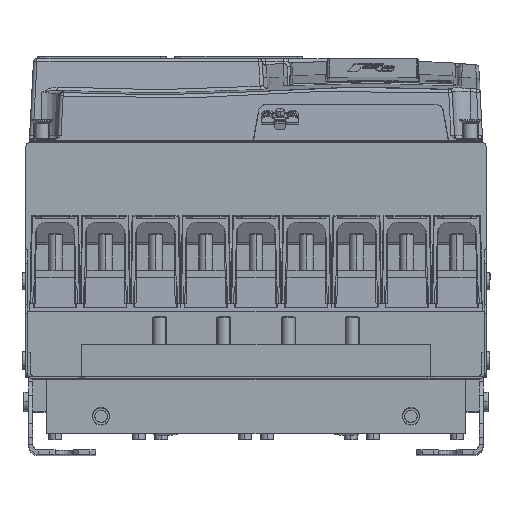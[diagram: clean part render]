
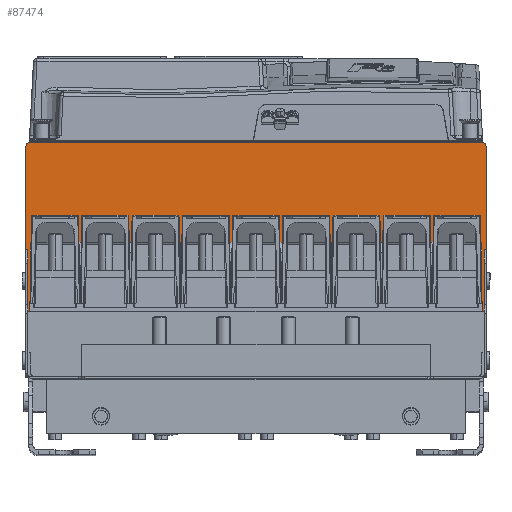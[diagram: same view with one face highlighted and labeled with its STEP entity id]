
A CAD part, top view. The second image highlights one B-rep face of the part: STEP entity #87474.
In plain terms, the highlighted planar face has unit normal (0, 0, 1).
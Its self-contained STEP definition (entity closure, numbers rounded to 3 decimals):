
#2790 = EDGE_CURVE ( 'NONE', #92805, #102068, #97127, .T. ) ;
#3140 = CIRCLE ( 'NONE', #10256, 3.5 ) ;
#4998 = EDGE_CURVE ( 'NONE', #56750, #82216, #3140, .T. ) ;
#6146 = ORIENTED_EDGE ( 'NONE', *, *, #27000, .T. ) ;
#7395 = CARTESIAN_POINT ( 'NONE',  ( -163.5, -167.9, 453. ) ) ;
#7453 = CARTESIAN_POINT ( 'NONE',  ( 165., -3.5, 453. ) ) ;
#8134 = CARTESIAN_POINT ( 'NONE',  ( 161.5, -3.5, 453. ) ) ;
#8350 = PLANE ( 'NONE',  #47885 ) ;
#8875 = VECTOR ( 'NONE', #55906, 1000. ) ;
#8895 = CARTESIAN_POINT ( 'NONE',  ( 0., 0., 453. ) ) ;
#10256 = AXIS2_PLACEMENT_3D ( 'NONE', #14265, #15369, #81731 ) ;
#11557 = CARTESIAN_POINT ( 'NONE',  ( 165.001, -77., 453. ) ) ;
#12762 = VECTOR ( 'NONE', #35684, 1000. ) ;
#13292 = CARTESIAN_POINT ( 'NONE',  ( 0., 0., 453. ) ) ;
#14265 = CARTESIAN_POINT ( 'NONE',  ( -161.5, -3.5, 453. ) ) ;
#15369 = DIRECTION ( 'NONE',  ( 0., 0., -1. ) ) ;
#15928 = LINE ( 'NONE', #69919, #17492 ) ;
#17492 = VECTOR ( 'NONE', #60562, 1000. ) ;
#20018 = CARTESIAN_POINT ( 'NONE',  ( -165., -3.5, 453. ) ) ;
#20489 = ORIENTED_EDGE ( 'NONE', *, *, #2790, .F. ) ;
#21350 = CARTESIAN_POINT ( 'NONE',  ( -163.5, 0., 453. ) ) ;
#22997 = EDGE_CURVE ( 'NONE', #82216, #40141, #70806, .T. ) ;
#24226 = ORIENTED_EDGE ( 'NONE', *, *, #109291, .T. ) ;
#26574 = FACE_OUTER_BOUND ( 'NONE', #77786, .T. ) ;
#27000 = EDGE_CURVE ( 'NONE', #64471, #66567, #48810, .T. ) ;
#27657 = EDGE_CURVE ( 'NONE', #56750, #62754, #86053, .T. ) ;
#28293 = ORIENTED_EDGE ( 'NONE', *, *, #36890, .F. ) ;
#29123 = LINE ( 'NONE', #62865, #100164 ) ;
#29160 = VERTEX_POINT ( 'NONE', #67356 ) ;
#33069 = VERTEX_POINT ( 'NONE', #90063 ) ;
#35001 = CARTESIAN_POINT ( 'NONE',  ( -165., -77., 453. ) ) ;
#35684 = DIRECTION ( 'NONE',  ( 0., -1., 0. ) ) ;
#36341 = EDGE_CURVE ( 'NONE', #33069, #29160, #15928, .T. ) ;
#36591 = VECTOR ( 'NONE', #55065, 1000. ) ;
#36890 = EDGE_CURVE ( 'NONE', #29160, #92805, #107880, .T. ) ;
#40141 = VERTEX_POINT ( 'NONE', #88244 ) ;
#41856 = DIRECTION ( 'NONE',  ( 0., 0., -1. ) ) ;
#42885 = ORIENTED_EDGE ( 'NONE', *, *, #63305, .F. ) ;
#47885 = AXIS2_PLACEMENT_3D ( 'NONE', #8895, #109013, #100730 ) ;
#48810 = LINE ( 'NONE', #58206, #90277 ) ;
#50532 = EDGE_CURVE ( 'NONE', #40141, #66567, #60912, .T. ) ;
#51311 = ORIENTED_EDGE ( 'NONE', *, *, #50532, .F. ) ;
#52331 = DIRECTION ( 'NONE',  ( 0., 1., 0. ) ) ;
#53565 = LINE ( 'NONE', #11557, #108946 ) ;
#55065 = DIRECTION ( 'NONE',  ( 0., 1., 0. ) ) ;
#55906 = DIRECTION ( 'NONE',  ( -1., 0., 0. ) ) ;
#56319 = VECTOR ( 'NONE', #80744, 1000. ) ;
#56750 = VERTEX_POINT ( 'NONE', #20018 ) ;
#58206 = CARTESIAN_POINT ( 'NONE',  ( 165., -3.5, 453. ) ) ;
#59247 = AXIS2_PLACEMENT_3D ( 'NONE', #8134, #41856, #52331 ) ;
#60562 = DIRECTION ( 'NONE',  ( 0., -1., 0. ) ) ;
#60912 = CIRCLE ( 'NONE', #59247, 3.5 ) ;
#62248 = ORIENTED_EDGE ( 'NONE', *, *, #22997, .F. ) ;
#62542 = CARTESIAN_POINT ( 'NONE',  ( -163.5, -77., 453. ) ) ;
#62754 = VERTEX_POINT ( 'NONE', #35001 ) ;
#62865 = CARTESIAN_POINT ( 'NONE',  ( -165.001, -77., 453. ) ) ;
#63305 = EDGE_CURVE ( 'NONE', #64471, #33069, #53565, .T. ) ;
#64471 = VERTEX_POINT ( 'NONE', #91692 ) ;
#66567 = VERTEX_POINT ( 'NONE', #7453 ) ;
#67053 = DIRECTION ( 'NONE',  ( 0., 1., 0. ) ) ;
#67356 = CARTESIAN_POINT ( 'NONE',  ( 163.5, -167.9, 453. ) ) ;
#67480 = ORIENTED_EDGE ( 'NONE', *, *, #4998, .F. ) ;
#69919 = CARTESIAN_POINT ( 'NONE',  ( 163.5, 0., 453. ) ) ;
#70751 = ORIENTED_EDGE ( 'NONE', *, *, #27657, .T. ) ;
#70806 = LINE ( 'NONE', #13292, #56319 ) ;
#77786 = EDGE_LOOP ( 'NONE', ( #67480, #70751, #24226, #20489, #28293, #79340, #42885, #6146, #51311, #62248 ) ) ;
#79340 = ORIENTED_EDGE ( 'NONE', *, *, #36341, .F. ) ;
#80744 = DIRECTION ( 'NONE',  ( 1., 0., 0. ) ) ;
#81731 = DIRECTION ( 'NONE',  ( 0., 1., 0. ) ) ;
#81846 = CARTESIAN_POINT ( 'NONE',  ( -161.5, 0., 453. ) ) ;
#82216 = VERTEX_POINT ( 'NONE', #81846 ) ;
#86053 = LINE ( 'NONE', #102656, #12762 ) ;
#87474 = ADVANCED_FACE ( 'NONE', ( #26574 ), #8350, .F. ) ;
#88244 = CARTESIAN_POINT ( 'NONE',  ( 161.5, 0., 453. ) ) ;
#88307 = DIRECTION ( 'NONE',  ( 1., 0., 0. ) ) ;
#90063 = CARTESIAN_POINT ( 'NONE',  ( 163.5, -77., 453. ) ) ;
#90277 = VECTOR ( 'NONE', #67053, 1000. ) ;
#91692 = CARTESIAN_POINT ( 'NONE',  ( 165., -77., 453. ) ) ;
#92805 = VERTEX_POINT ( 'NONE', #7395 ) ;
#96729 = DIRECTION ( 'NONE',  ( -1., 0., 0. ) ) ;
#97127 = LINE ( 'NONE', #21350, #36591 ) ;
#100164 = VECTOR ( 'NONE', #88307, 1000. ) ;
#100730 = DIRECTION ( 'NONE',  ( 0., 1., 0. ) ) ;
#102068 = VERTEX_POINT ( 'NONE', #62542 ) ;
#102656 = CARTESIAN_POINT ( 'NONE',  ( -165., -3.5, 453. ) ) ;
#106257 = CARTESIAN_POINT ( 'NONE',  ( 0., -167.9, 453. ) ) ;
#107880 = LINE ( 'NONE', #106257, #8875 ) ;
#108946 = VECTOR ( 'NONE', #96729, 1000. ) ;
#109013 = DIRECTION ( 'NONE',  ( 0., 0., -1. ) ) ;
#109291 = EDGE_CURVE ( 'NONE', #62754, #102068, #29123, .T. ) ;
